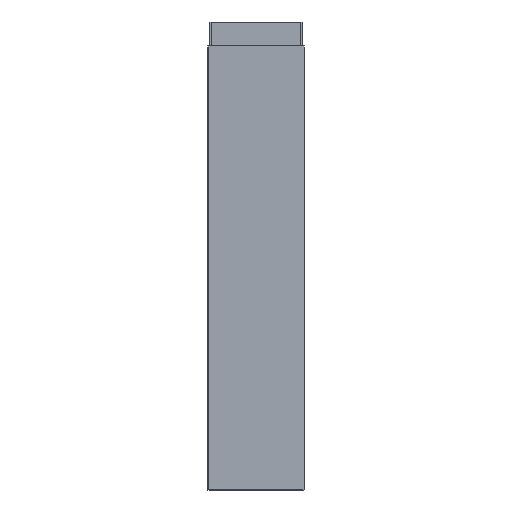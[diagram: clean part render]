
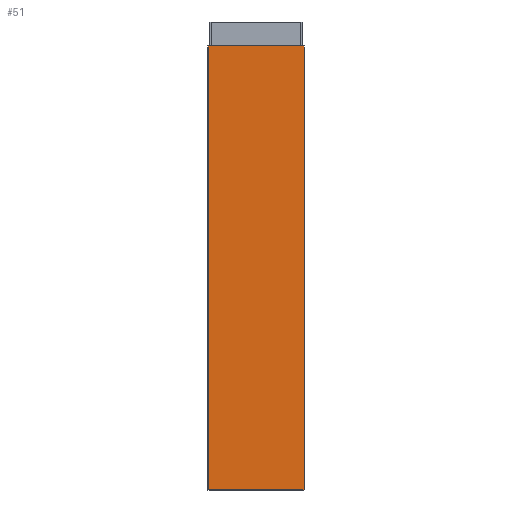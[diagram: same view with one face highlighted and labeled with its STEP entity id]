
A CAD part, front view. The second image highlights one B-rep face of the part: STEP entity #51.
In plain terms, the highlighted planar face has unit normal (0, -1, 0).
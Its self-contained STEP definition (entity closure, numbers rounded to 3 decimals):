
#51=ADVANCED_FACE('',(#91),#553,.T.);
#91=FACE_OUTER_BOUND('',#131,.T.);
#131=EDGE_LOOP('',(#267,#268,#269,#270));
#267=ORIENTED_EDGE('',*,*,#374,.T.);
#268=ORIENTED_EDGE('',*,*,#375,.T.);
#269=ORIENTED_EDGE('',*,*,#376,.F.);
#270=ORIENTED_EDGE('',*,*,#372,.F.);
#372=EDGE_CURVE('',#509,#510,#456,.T.);
#374=EDGE_CURVE('',#509,#511,#458,.T.);
#375=EDGE_CURVE('',#511,#512,#459,.T.);
#376=EDGE_CURVE('',#510,#512,#460,.T.);
#456=B_SPLINE_CURVE_WITH_KNOTS('',1,(#961,#962),.UNSPECIFIED.,.F.,.F.,(2,
2),(0.,8.),.UNSPECIFIED.);
#458=B_SPLINE_CURVE_WITH_KNOTS('',1,(#965,#966),.UNSPECIFIED.,.F.,.F.,(2,
2),(-139.64,-119.64),.UNSPECIFIED.);
#459=B_SPLINE_CURVE_WITH_KNOTS('',1,(#967,#968),.UNSPECIFIED.,.F.,.F.,(2,
2),(0.,8.),.UNSPECIFIED.);
#460=B_SPLINE_CURVE_WITH_KNOTS('',1,(#969,#970),.UNSPECIFIED.,.F.,.F.,(2,
2),(-139.64,-119.64),.UNSPECIFIED.);
#509=VERTEX_POINT('',#937);
#510=VERTEX_POINT('',#938);
#511=VERTEX_POINT('',#939);
#512=VERTEX_POINT('',#940);
#553=PLANE('',#680);
#680=AXIS2_PLACEMENT_3D('',#916,#722,$);
#722=DIRECTION('',(0.,-1.,0.));
#916=CARTESIAN_POINT('',(-107.,-25.,-56.633));
#937=CARTESIAN_POINT('',(-107.,-25.,-56.633));
#938=CARTESIAN_POINT('',(-115.,-25.,-56.633));
#939=CARTESIAN_POINT('',(-107.,-25.,-19.633));
#940=CARTESIAN_POINT('',(-115.,-25.,-19.633));
#961=CARTESIAN_POINT('',(-107.,-25.,-56.633));
#962=CARTESIAN_POINT('',(-115.,-25.,-56.633));
#965=CARTESIAN_POINT('',(-107.,-25.,-56.633));
#966=CARTESIAN_POINT('',(-107.,-25.,-19.633));
#967=CARTESIAN_POINT('',(-107.,-25.,-19.633));
#968=CARTESIAN_POINT('',(-115.,-25.,-19.633));
#969=CARTESIAN_POINT('',(-115.,-25.,-56.633));
#970=CARTESIAN_POINT('',(-115.,-25.,-19.633));
